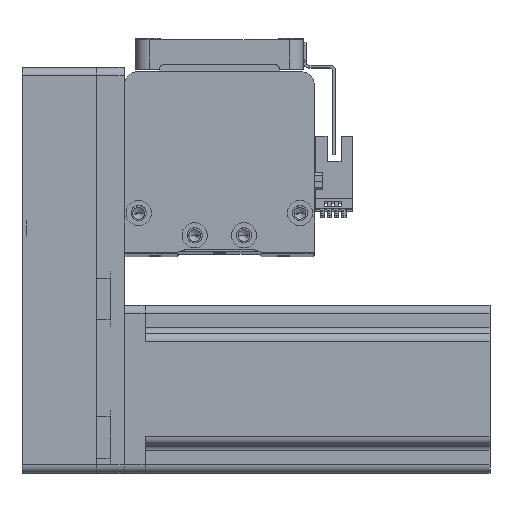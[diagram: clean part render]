
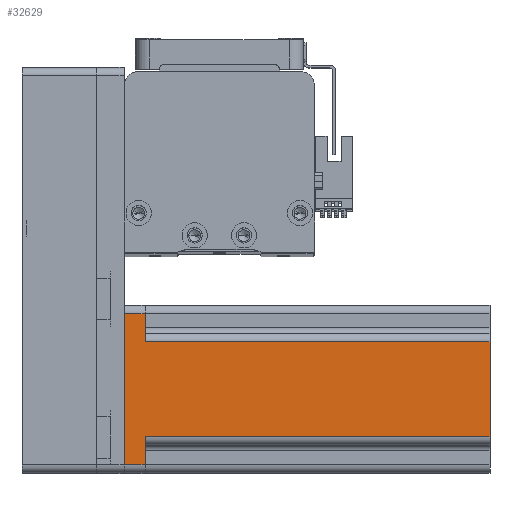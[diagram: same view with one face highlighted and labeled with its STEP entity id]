
A CAD part, top view. The second image highlights one B-rep face of the part: STEP entity #32629.
In plain terms, the highlighted planar face has unit normal (0, 0, 1) as drawn and (0, -1, 0) by its records, which use the part's own axes.
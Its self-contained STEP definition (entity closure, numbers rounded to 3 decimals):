
#300 = CARTESIAN_POINT ( 'NONE',  ( -20., -30., 7.5 ) ) ;
#1649 = AXIS2_PLACEMENT_3D ( 'NONE', #40232, #19488, #43717 ) ;
#2183 = VECTOR ( 'NONE', #37470, 1000. ) ;
#2277 = EDGE_CURVE ( 'NONE', #8953, #31580, #10218, .T. ) ;
#3361 = VECTOR ( 'NONE', #44884, 1000. ) ;
#3550 = ORIENTED_EDGE ( 'NONE', *, *, #39265, .T. ) ;
#3765 = DIRECTION ( 'NONE',  ( 1., 0., 0. ) ) ;
#4693 = CARTESIAN_POINT ( 'NONE',  ( -27., -30., 7.5 ) ) ;
#4916 = VECTOR ( 'NONE', #29634, 1000. ) ;
#6011 = ORIENTED_EDGE ( 'NONE', *, *, #31046, .T. ) ;
#7752 = VECTOR ( 'NONE', #3765, 1000. ) ;
#7852 = EDGE_LOOP ( 'NONE', ( #35061, #3550, #42999, #6011, #42321, #39816, #10757, #41963 ) ) ;
#8953 = VERTEX_POINT ( 'NONE', #40325 ) ;
#9144 = CARTESIAN_POINT ( 'NONE',  ( 30., -30., 130.7 ) ) ;
#9683 = VECTOR ( 'NONE', #37753, 1000. ) ;
#10218 = LINE ( 'NONE', #35211, #35823 ) ;
#10757 = ORIENTED_EDGE ( 'NONE', *, *, #2277, .T. ) ;
#10928 = CARTESIAN_POINT ( 'NONE',  ( 30., -30., 0. ) ) ;
#11326 = VERTEX_POINT ( 'NONE', #23901 ) ;
#11422 = LINE ( 'NONE', #13140, #2183 ) ;
#11794 = CARTESIAN_POINT ( 'NONE',  ( 27., -30., 0. ) ) ;
#12048 = VERTEX_POINT ( 'NONE', #11794 ) ;
#12480 = VECTOR ( 'NONE', #33544, 1000. ) ;
#13140 = CARTESIAN_POINT ( 'NONE',  ( -27., -30., 130.7 ) ) ;
#13264 = CARTESIAN_POINT ( 'NONE',  ( 27., -30., 130.7 ) ) ;
#15785 = PLANE ( 'NONE',  #1649 ) ;
#16993 = EDGE_CURVE ( 'NONE', #31580, #11326, #31647, .T. ) ;
#17154 = CARTESIAN_POINT ( 'NONE',  ( -17., -30., 130.7 ) ) ;
#19488 = DIRECTION ( 'NONE',  ( 0., 1., 0. ) ) ;
#21428 = DIRECTION ( 'NONE',  ( -1., 0., 0. ) ) ;
#21660 = EDGE_CURVE ( 'NONE', #32537, #39668, #26298, .T. ) ;
#23001 = LINE ( 'NONE', #17154, #3361 ) ;
#23088 = CARTESIAN_POINT ( 'NONE',  ( -17., -30., 7.5 ) ) ;
#23901 = CARTESIAN_POINT ( 'NONE',  ( 17., -30., 130.7 ) ) ;
#26298 = LINE ( 'NONE', #300, #7752 ) ;
#27308 = CARTESIAN_POINT ( 'NONE',  ( -27., -30., 0. ) ) ;
#28262 = LINE ( 'NONE', #13264, #9683 ) ;
#29634 = DIRECTION ( 'NONE',  ( 0., 0., 1. ) ) ;
#30971 = CARTESIAN_POINT ( 'NONE',  ( -17., -30., 130.7 ) ) ;
#31028 = LINE ( 'NONE', #9144, #12480 ) ;
#31046 = EDGE_CURVE ( 'NONE', #32537, #31104, #11422, .T. ) ;
#31104 = VERTEX_POINT ( 'NONE', #27308 ) ;
#31362 = VECTOR ( 'NONE', #42253, 1000. ) ;
#31580 = VERTEX_POINT ( 'NONE', #44268 ) ;
#31647 = LINE ( 'NONE', #40093, #4916 ) ;
#32537 = VERTEX_POINT ( 'NONE', #4693 ) ;
#32629 = ADVANCED_FACE ( 'NONE', ( #40932 ), #15785, .F. ) ;
#33544 = DIRECTION ( 'NONE',  ( 1., 0., 0. ) ) ;
#34140 = VERTEX_POINT ( 'NONE', #30971 ) ;
#35061 = ORIENTED_EDGE ( 'NONE', *, *, #35388, .F. ) ;
#35211 = CARTESIAN_POINT ( 'NONE',  ( 20., -30., 7.5 ) ) ;
#35388 = EDGE_CURVE ( 'NONE', #34140, #11326, #31028, .T. ) ;
#35823 = VECTOR ( 'NONE', #21428, 1000. ) ;
#37470 = DIRECTION ( 'NONE',  ( 0., 0., -1. ) ) ;
#37753 = DIRECTION ( 'NONE',  ( 0., 0., 1. ) ) ;
#39265 = EDGE_CURVE ( 'NONE', #34140, #39668, #23001, .T. ) ;
#39668 = VERTEX_POINT ( 'NONE', #23088 ) ;
#39816 = ORIENTED_EDGE ( 'NONE', *, *, #40381, .T. ) ;
#40093 = CARTESIAN_POINT ( 'NONE',  ( 17., -30., 130.7 ) ) ;
#40232 = CARTESIAN_POINT ( 'NONE',  ( 30., -30., 130.7 ) ) ;
#40325 = CARTESIAN_POINT ( 'NONE',  ( 27., -30., 7.5 ) ) ;
#40381 = EDGE_CURVE ( 'NONE', #12048, #8953, #28262, .T. ) ;
#40543 = LINE ( 'NONE', #10928, #31362 ) ;
#40932 = FACE_OUTER_BOUND ( 'NONE', #7852, .T. ) ;
#41963 = ORIENTED_EDGE ( 'NONE', *, *, #16993, .T. ) ;
#42206 = EDGE_CURVE ( 'NONE', #31104, #12048, #40543, .T. ) ;
#42253 = DIRECTION ( 'NONE',  ( 1., 0., 0. ) ) ;
#42321 = ORIENTED_EDGE ( 'NONE', *, *, #42206, .T. ) ;
#42999 = ORIENTED_EDGE ( 'NONE', *, *, #21660, .F. ) ;
#43717 = DIRECTION ( 'NONE',  ( -1., 0., 0. ) ) ;
#44268 = CARTESIAN_POINT ( 'NONE',  ( 17., -30., 7.5 ) ) ;
#44884 = DIRECTION ( 'NONE',  ( 0., 0., -1. ) ) ;
